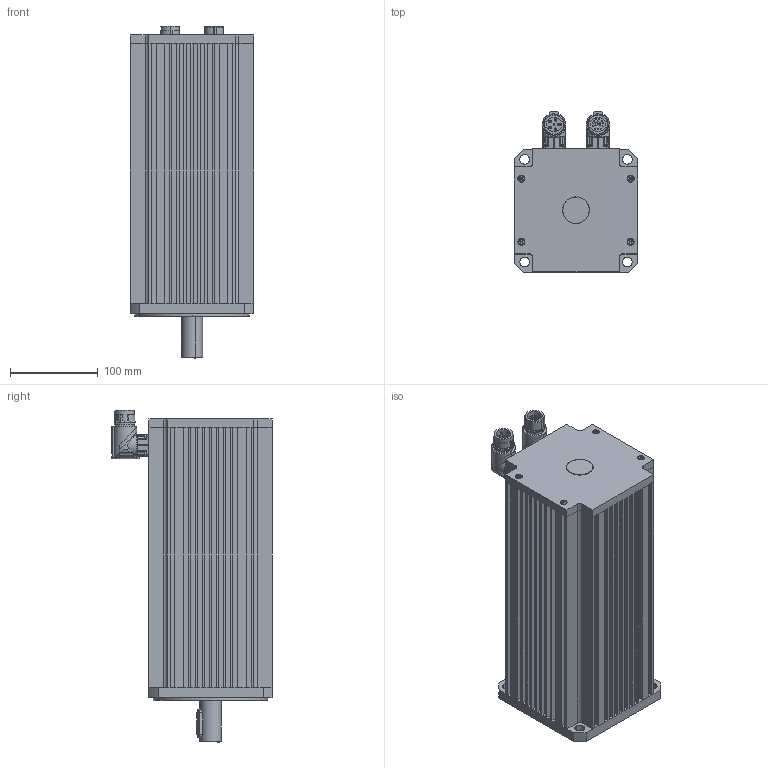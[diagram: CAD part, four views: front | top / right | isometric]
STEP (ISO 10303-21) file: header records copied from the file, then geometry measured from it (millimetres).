
FILE_DESCRIPTION((''),'2;1');
FILE_NAME('C:\Documents and Settings\arodrigo\Escritorio\FP MODIFICAR WEB\FP-3314 + Resolver\FP-3314 + Resolver2.stp','2016-01-08T16:18:00',('arodrigo'),(''),'Autodesk Inventor 9','Autodesk Inventor 9','');
FILE_SCHEMA(('AUTOMOTIVE_DESIGN { 1 0 10303 214 1 1 1 1 }'));
Length unit declared in the file: millimetre
Products named in the file (1): Pieza1
Bounding box: 140 x 182.15 x 377.36 mm (x, y, z)
Volume: 2234890.7 mm3; surface area: 564418.1 mm2
Topology: 32 solids, 44 shells, 1624 faces, 4221 edges, 2539 vertices
Faces by surface type: plane 638, cylinder 616, sphere 132, cone 122, torus 72, bspline 44
Entity records: 49704 total; most frequent: CARTESIAN_POINT 10122, DIRECTION 8861, ORIENTED_EDGE 8010, EDGE_CURVE 4005, AXIS2_PLACEMENT_3D 3512, VERTEX_POINT 2543, EDGE_LOOP 1838, VECTOR 1837
